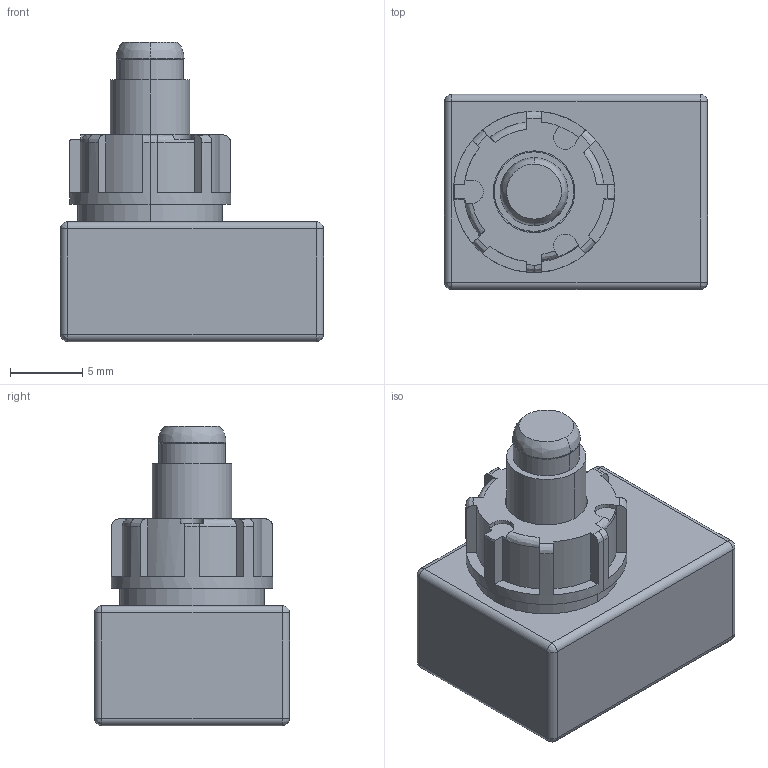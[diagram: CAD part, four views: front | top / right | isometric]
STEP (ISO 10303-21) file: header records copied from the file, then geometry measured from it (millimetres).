
FILE_DESCRIPTION (( 'STEP AP214' ), '1' );
FILE_NAME ('SPED310200.STEP', '2009-10-23T06:09:47', ( '' ), ( '' ), 'SwSTEP 2.0', 'SolidWorks 2007', '' );
FILE_SCHEMA (( 'AUTOMOTIVE_DESIGN' ));
Length unit declared in the file: millimetre
Products named in the file (1): SPED310200
Bounding box: 18.2 x 13.5 x 20.7 mm (x, y, z)
Volume: 2646.5 mm3; surface area: 1374.4 mm2
Topology: 1 solids, 1 shells, 125 faces, 323 edges, 200 vertices
Faces by surface type: plane 59, cylinder 41, bspline 25
Entity records: 4694 total; most frequent: CARTESIAN_POINT 1220, ORIENTED_EDGE 630, DIRECTION 569, EDGE_CURVE 315, AXIS2_PLACEMENT_3D 203, VERTEX_POINT 200, VECTOR 163, LINE 163
